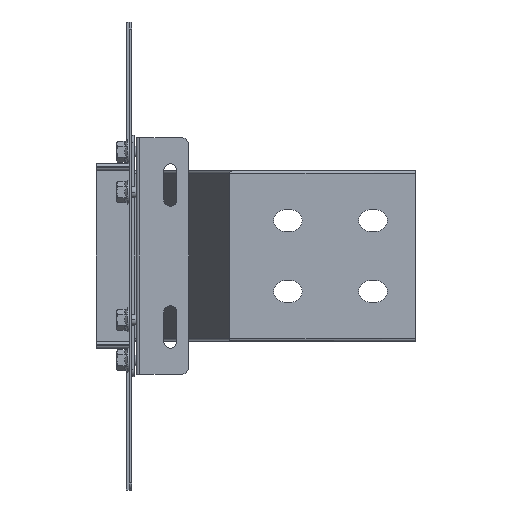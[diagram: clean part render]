
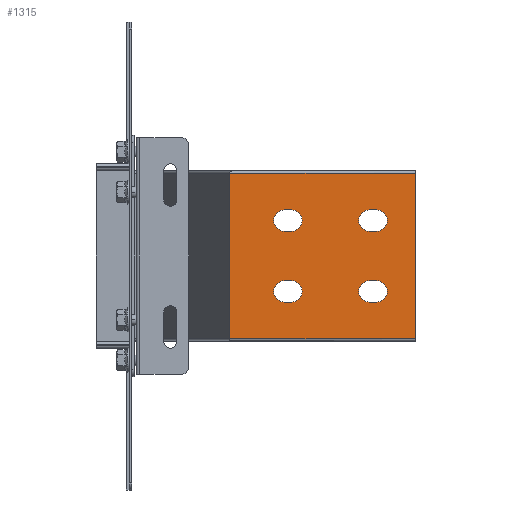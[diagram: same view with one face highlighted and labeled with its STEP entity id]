
A CAD part, front view. The second image highlights one B-rep face of the part: STEP entity #1315.
In plain terms, the highlighted planar face has unit normal (0, -1, 0).
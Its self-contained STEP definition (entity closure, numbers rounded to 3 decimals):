
#1143=AXIS2_PLACEMENT_3D('Plane Axis2P3D',#1140,#1141,#1142) ;
#1181=AXIS2_PLACEMENT_3D('Circle Axis2P3D',#1179,#1180,$) ;
#1197=AXIS2_PLACEMENT_3D('Circle Axis2P3D',#1195,#1196,$) ;
#1215=AXIS2_PLACEMENT_3D('Circle Axis2P3D',#1213,#1214,$) ;
#1231=AXIS2_PLACEMENT_3D('Circle Axis2P3D',#1229,#1230,$) ;
#1249=AXIS2_PLACEMENT_3D('Circle Axis2P3D',#1247,#1248,$) ;
#1265=AXIS2_PLACEMENT_3D('Circle Axis2P3D',#1263,#1264,$) ;
#1292=AXIS2_PLACEMENT_3D('Circle Axis2P3D',#1290,#1291,$) ;
#1306=AXIS2_PLACEMENT_3D('Circle Axis2P3D',#1304,#1305,$) ;
#1140=CARTESIAN_POINT('Axis2P3D Location',(200.,-151.65,-58.35)) ;
#1145=CARTESIAN_POINT('Line Origine',(134.45,-151.65,-58.35)) ;
#1149=CARTESIAN_POINT('Vertex',(200.,-151.65,-58.35)) ;
#1151=CARTESIAN_POINT('Vertex',(68.9,-151.65,-58.35)) ;
#1154=CARTESIAN_POINT('Line Origine',(200.,-151.65,0.)) ;
#1158=CARTESIAN_POINT('Vertex',(200.,-151.65,58.35)) ;
#1161=CARTESIAN_POINT('Line Origine',(134.45,-151.65,58.35)) ;
#1165=CARTESIAN_POINT('Vertex',(68.9,-151.65,58.35)) ;
#1168=CARTESIAN_POINT('Line Origine',(68.9,-151.65,0.)) ;
#1179=CARTESIAN_POINT('Axis2P3D Location',(112.5,-151.65,25.)) ;
#1183=CARTESIAN_POINT('Vertex',(112.5,-151.65,17.5)) ;
#1185=CARTESIAN_POINT('Vertex',(112.5,-151.65,32.5)) ;
#1188=CARTESIAN_POINT('Line Origine',(110.,-151.65,17.5)) ;
#1192=CARTESIAN_POINT('Vertex',(107.5,-151.65,17.5)) ;
#1195=CARTESIAN_POINT('Axis2P3D Location',(107.5,-151.65,25.)) ;
#1199=CARTESIAN_POINT('Vertex',(107.5,-151.65,32.5)) ;
#1202=CARTESIAN_POINT('Line Origine',(110.,-151.65,32.5)) ;
#1213=CARTESIAN_POINT('Axis2P3D Location',(172.5,-151.65,25.)) ;
#1217=CARTESIAN_POINT('Vertex',(172.5,-151.65,17.5)) ;
#1219=CARTESIAN_POINT('Vertex',(172.5,-151.65,32.5)) ;
#1222=CARTESIAN_POINT('Line Origine',(170.,-151.65,17.5)) ;
#1226=CARTESIAN_POINT('Vertex',(167.5,-151.65,17.5)) ;
#1229=CARTESIAN_POINT('Axis2P3D Location',(167.5,-151.65,25.)) ;
#1233=CARTESIAN_POINT('Vertex',(167.5,-151.65,32.5)) ;
#1236=CARTESIAN_POINT('Line Origine',(170.,-151.65,32.5)) ;
#1247=CARTESIAN_POINT('Axis2P3D Location',(107.5,-151.65,-25.)) ;
#1251=CARTESIAN_POINT('Vertex',(107.5,-151.65,-17.5)) ;
#1253=CARTESIAN_POINT('Vertex',(107.5,-151.65,-32.5)) ;
#1256=CARTESIAN_POINT('Line Origine',(110.,-151.65,-17.5)) ;
#1260=CARTESIAN_POINT('Vertex',(112.5,-151.65,-17.5)) ;
#1263=CARTESIAN_POINT('Axis2P3D Location',(112.5,-151.65,-25.)) ;
#1267=CARTESIAN_POINT('Vertex',(112.5,-151.65,-32.5)) ;
#1270=CARTESIAN_POINT('Line Origine',(110.,-151.65,-32.5)) ;
#1281=CARTESIAN_POINT('Line Origine',(170.,-151.65,-17.5)) ;
#1285=CARTESIAN_POINT('Vertex',(172.5,-151.65,-17.5)) ;
#1287=CARTESIAN_POINT('Vertex',(167.5,-151.65,-17.5)) ;
#1290=CARTESIAN_POINT('Axis2P3D Location',(172.5,-151.65,-25.)) ;
#1294=CARTESIAN_POINT('Vertex',(172.5,-151.65,-32.5)) ;
#1297=CARTESIAN_POINT('Line Origine',(170.,-151.65,-32.5)) ;
#1301=CARTESIAN_POINT('Vertex',(167.5,-151.65,-32.5)) ;
#1304=CARTESIAN_POINT('Axis2P3D Location',(167.5,-151.65,-25.)) ;
#1141=DIRECTION('Axis2P3D Direction',(0.,-1.,0.)) ;
#1142=DIRECTION('Axis2P3D XDirection',(0.,0.,1.)) ;
#1146=DIRECTION('Vector Direction',(-1.,0.,0.)) ;
#1155=DIRECTION('Vector Direction',(0.,0.,1.)) ;
#1162=DIRECTION('Vector Direction',(-1.,0.,0.)) ;
#1169=DIRECTION('Vector Direction',(0.,0.,1.)) ;
#1180=DIRECTION('Axis2P3D Direction',(0.,-1.,0.)) ;
#1189=DIRECTION('Vector Direction',(-1.,0.,0.)) ;
#1196=DIRECTION('Axis2P3D Direction',(0.,-1.,0.)) ;
#1203=DIRECTION('Vector Direction',(1.,0.,0.)) ;
#1214=DIRECTION('Axis2P3D Direction',(0.,-1.,0.)) ;
#1223=DIRECTION('Vector Direction',(1.,0.,0.)) ;
#1230=DIRECTION('Axis2P3D Direction',(0.,-1.,0.)) ;
#1237=DIRECTION('Vector Direction',(-1.,0.,0.)) ;
#1248=DIRECTION('Axis2P3D Direction',(0.,-1.,0.)) ;
#1257=DIRECTION('Vector Direction',(-1.,0.,0.)) ;
#1264=DIRECTION('Axis2P3D Direction',(0.,-1.,0.)) ;
#1271=DIRECTION('Vector Direction',(1.,0.,0.)) ;
#1282=DIRECTION('Vector Direction',(1.,0.,0.)) ;
#1291=DIRECTION('Axis2P3D Direction',(0.,-1.,0.)) ;
#1298=DIRECTION('Vector Direction',(-1.,0.,0.)) ;
#1305=DIRECTION('Axis2P3D Direction',(0.,-1.,0.)) ;
#1147=VECTOR('Line Direction',#1146,1.) ;
#1156=VECTOR('Line Direction',#1155,1.) ;
#1163=VECTOR('Line Direction',#1162,1.) ;
#1170=VECTOR('Line Direction',#1169,1.) ;
#1190=VECTOR('Line Direction',#1189,1.) ;
#1204=VECTOR('Line Direction',#1203,1.) ;
#1224=VECTOR('Line Direction',#1223,1.) ;
#1238=VECTOR('Line Direction',#1237,1.) ;
#1258=VECTOR('Line Direction',#1257,1.) ;
#1272=VECTOR('Line Direction',#1271,1.) ;
#1283=VECTOR('Line Direction',#1282,1.) ;
#1299=VECTOR('Line Direction',#1298,1.) ;
#1174=ORIENTED_EDGE('',*,*,#1153,.F.) ;
#1175=ORIENTED_EDGE('',*,*,#1160,.F.) ;
#1176=ORIENTED_EDGE('',*,*,#1167,.T.) ;
#1177=ORIENTED_EDGE('',*,*,#1172,.F.) ;
#1208=ORIENTED_EDGE('',*,*,#1187,.F.) ;
#1209=ORIENTED_EDGE('',*,*,#1194,.F.) ;
#1210=ORIENTED_EDGE('',*,*,#1201,.F.) ;
#1211=ORIENTED_EDGE('',*,*,#1206,.F.) ;
#1242=ORIENTED_EDGE('',*,*,#1221,.F.) ;
#1243=ORIENTED_EDGE('',*,*,#1228,.F.) ;
#1244=ORIENTED_EDGE('',*,*,#1235,.F.) ;
#1245=ORIENTED_EDGE('',*,*,#1240,.F.) ;
#1276=ORIENTED_EDGE('',*,*,#1255,.F.) ;
#1277=ORIENTED_EDGE('',*,*,#1262,.F.) ;
#1278=ORIENTED_EDGE('',*,*,#1269,.F.) ;
#1279=ORIENTED_EDGE('',*,*,#1274,.F.) ;
#1310=ORIENTED_EDGE('',*,*,#1289,.F.) ;
#1311=ORIENTED_EDGE('',*,*,#1296,.F.) ;
#1312=ORIENTED_EDGE('',*,*,#1303,.F.) ;
#1313=ORIENTED_EDGE('',*,*,#1308,.F.) ;
#1212=FACE_BOUND('',#1207,.T.) ;
#1246=FACE_BOUND('',#1241,.T.) ;
#1280=FACE_BOUND('',#1275,.T.) ;
#1314=FACE_BOUND('',#1309,.T.) ;
#1315=ADVANCED_FACE('N',(#1178,#1212,#1246,#1280,#1314),#1144,.T.) ;
#1182=CIRCLE('generated circle',#1181,7.5) ;
#1198=CIRCLE('generated circle',#1197,7.5) ;
#1216=CIRCLE('generated circle',#1215,7.5) ;
#1232=CIRCLE('generated circle',#1231,7.5) ;
#1250=CIRCLE('generated circle',#1249,7.5) ;
#1266=CIRCLE('generated circle',#1265,7.5) ;
#1293=CIRCLE('generated circle',#1292,7.5) ;
#1307=CIRCLE('generated circle',#1306,7.5) ;
#1153=EDGE_CURVE('',#1150,#1152,#1148,.T.) ;
#1160=EDGE_CURVE('',#1159,#1150,#1157,.F.) ;
#1167=EDGE_CURVE('',#1159,#1166,#1164,.T.) ;
#1172=EDGE_CURVE('',#1152,#1166,#1171,.T.) ;
#1187=EDGE_CURVE('',#1184,#1186,#1182,.T.) ;
#1194=EDGE_CURVE('',#1193,#1184,#1191,.F.) ;
#1201=EDGE_CURVE('',#1200,#1193,#1198,.T.) ;
#1206=EDGE_CURVE('',#1186,#1200,#1205,.F.) ;
#1221=EDGE_CURVE('',#1218,#1220,#1216,.T.) ;
#1228=EDGE_CURVE('',#1227,#1218,#1225,.T.) ;
#1235=EDGE_CURVE('',#1234,#1227,#1232,.T.) ;
#1240=EDGE_CURVE('',#1220,#1234,#1239,.T.) ;
#1255=EDGE_CURVE('',#1252,#1254,#1250,.T.) ;
#1262=EDGE_CURVE('',#1261,#1252,#1259,.T.) ;
#1269=EDGE_CURVE('',#1268,#1261,#1266,.T.) ;
#1274=EDGE_CURVE('',#1254,#1268,#1273,.T.) ;
#1289=EDGE_CURVE('',#1286,#1288,#1284,.F.) ;
#1296=EDGE_CURVE('',#1295,#1286,#1293,.T.) ;
#1303=EDGE_CURVE('',#1302,#1295,#1300,.F.) ;
#1308=EDGE_CURVE('',#1288,#1302,#1307,.T.) ;
#1173=EDGE_LOOP('',(#1174,#1175,#1176,#1177)) ;
#1207=EDGE_LOOP('',(#1208,#1209,#1210,#1211)) ;
#1241=EDGE_LOOP('',(#1242,#1243,#1244,#1245)) ;
#1275=EDGE_LOOP('',(#1276,#1277,#1278,#1279)) ;
#1309=EDGE_LOOP('',(#1310,#1311,#1312,#1313)) ;
#1178=FACE_OUTER_BOUND('',#1173,.T.) ;
#1148=LINE('Line',#1145,#1147) ;
#1157=LINE('Line',#1154,#1156) ;
#1164=LINE('Line',#1161,#1163) ;
#1171=LINE('Line',#1168,#1170) ;
#1191=LINE('Line',#1188,#1190) ;
#1205=LINE('Line',#1202,#1204) ;
#1225=LINE('Line',#1222,#1224) ;
#1239=LINE('Line',#1236,#1238) ;
#1259=LINE('Line',#1256,#1258) ;
#1273=LINE('Line',#1270,#1272) ;
#1284=LINE('Line',#1281,#1283) ;
#1300=LINE('Line',#1297,#1299) ;
#1144=PLANE('',#1143) ;
#1150=VERTEX_POINT('',#1149) ;
#1152=VERTEX_POINT('',#1151) ;
#1159=VERTEX_POINT('',#1158) ;
#1166=VERTEX_POINT('',#1165) ;
#1184=VERTEX_POINT('',#1183) ;
#1186=VERTEX_POINT('',#1185) ;
#1193=VERTEX_POINT('',#1192) ;
#1200=VERTEX_POINT('',#1199) ;
#1218=VERTEX_POINT('',#1217) ;
#1220=VERTEX_POINT('',#1219) ;
#1227=VERTEX_POINT('',#1226) ;
#1234=VERTEX_POINT('',#1233) ;
#1252=VERTEX_POINT('',#1251) ;
#1254=VERTEX_POINT('',#1253) ;
#1261=VERTEX_POINT('',#1260) ;
#1268=VERTEX_POINT('',#1267) ;
#1286=VERTEX_POINT('',#1285) ;
#1288=VERTEX_POINT('',#1287) ;
#1295=VERTEX_POINT('',#1294) ;
#1302=VERTEX_POINT('',#1301) ;
